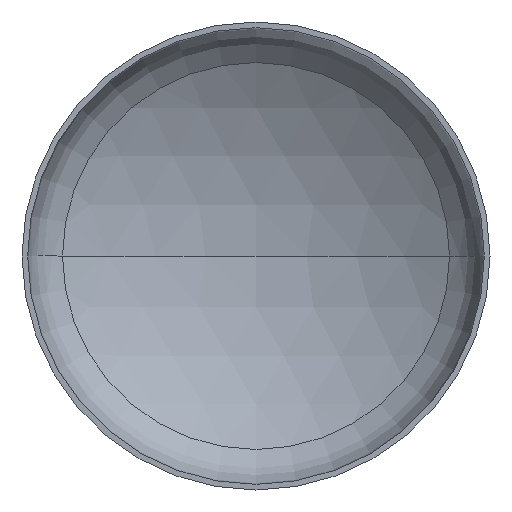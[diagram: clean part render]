
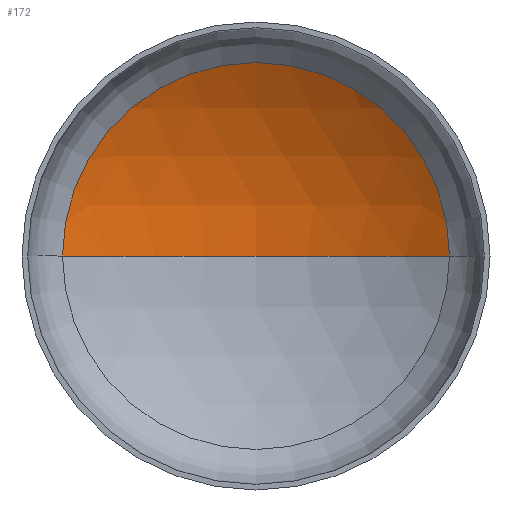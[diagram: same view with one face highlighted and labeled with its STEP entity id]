
A CAD part, front view. The second image highlights one B-rep face of the part: STEP entity #172.
In plain terms, the highlighted spherical face has radius 1920 mm.
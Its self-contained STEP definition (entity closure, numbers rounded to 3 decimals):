
#16 = AXIS2_PLACEMENT_3D ( 'NONE', #255, #27, #215 ) ;
#20 = AXIS2_PLACEMENT_3D ( 'NONE', #190, #358, #361 ) ;
#22 = AXIS2_PLACEMENT_3D ( 'NONE', #159, #154, #157 ) ;
#26 = EDGE_LOOP ( 'NONE', ( #121, #83, #354 ) ) ;
#27 = DIRECTION ( 'NONE',  ( 0., 0., 1. ) ) ;
#28 = CIRCLE ( 'NONE', #22, 992.206 ) ;
#37 = VERTEX_POINT ( 'NONE', #271 ) ;
#55 = AXIS2_PLACEMENT_3D ( 'NONE', #360, #188, #292 ) ;
#83 = ORIENTED_EDGE ( 'NONE', *, *, #340, .T. ) ;
#102 = VERTEX_POINT ( 'NONE', #297 ) ;
#121 = ORIENTED_EDGE ( 'NONE', *, *, #346, .F. ) ;
#133 = VERTEX_POINT ( 'NONE', #196 ) ;
#154 = DIRECTION ( 'NONE',  ( 0., -1., 0. ) ) ;
#157 = DIRECTION ( 'NONE',  ( 1., 0., 0. ) ) ;
#159 = CARTESIAN_POINT ( 'NONE',  ( 0., 406.765, 0. ) ) ;
#172 = ADVANCED_FACE ( 'NONE', ( #203 ), #382, .F. ) ;
#188 = DIRECTION ( 'NONE',  ( 0., 0., -1. ) ) ;
#190 = CARTESIAN_POINT ( 'NONE',  ( 0., -1236.989, 0. ) ) ;
#196 = CARTESIAN_POINT ( 'NONE',  ( 992.206, 406.765, 0. ) ) ;
#203 = FACE_OUTER_BOUND ( 'NONE', #26, .T. ) ;
#215 = DIRECTION ( 'NONE',  ( 1., 0., 0. ) ) ;
#231 = CIRCLE ( 'NONE', #16, 1920. ) ;
#255 = CARTESIAN_POINT ( 'NONE',  ( 0., -1236.989, 0. ) ) ;
#271 = CARTESIAN_POINT ( 'NONE',  ( -992.206, 406.765, 0. ) ) ;
#287 = CIRCLE ( 'NONE', #20, 1920. ) ;
#292 = DIRECTION ( 'NONE',  ( -1., 0., 0. ) ) ;
#297 = CARTESIAN_POINT ( 'NONE',  ( 0., 683.011, 0. ) ) ;
#328 = EDGE_CURVE ( 'NONE', #133, #37, #28, .T. ) ;
#340 = EDGE_CURVE ( 'NONE', #102, #133, #287, .T. ) ;
#346 = EDGE_CURVE ( 'NONE', #102, #37, #231, .T. ) ;
#354 = ORIENTED_EDGE ( 'NONE', *, *, #328, .T. ) ;
#358 = DIRECTION ( 'NONE',  ( 0., 0., -1. ) ) ;
#360 = CARTESIAN_POINT ( 'NONE',  ( 0., -1236.989, 0. ) ) ;
#361 = DIRECTION ( 'NONE',  ( -1., 0., 0. ) ) ;
#382 = SPHERICAL_SURFACE ( 'NONE', #55, 1920. ) ;
